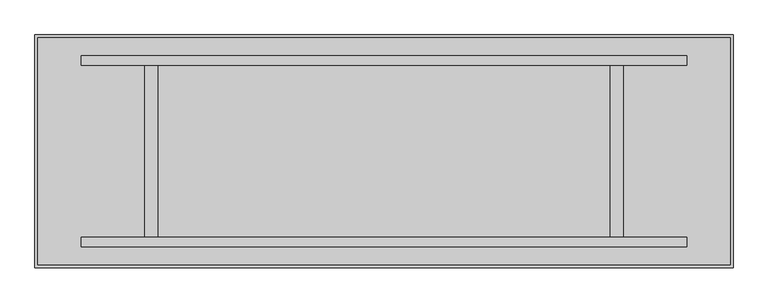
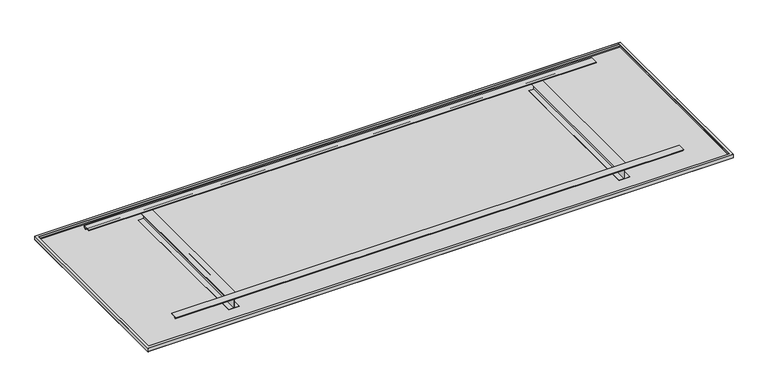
"""IFC4 building model written with IfcOpenShell, lengths in millimetres: proxy geometry, durlum_dur_SOLO_ACTIVE : durlum_dur_SOLO_ACTIVE."""

from ifc_helpers import new_model, si_unit, frame, origin, origin_with_axes, place, context, project, spatial, polyline, outline, extrude, source, transform, mapped, element, save


def generic_models_6a377f2d(model_context):
    return source(origin(), model_context, "Body", "SweptSolid", [
        extrude(outline(polyline([(410.0, 60.0), (400.0753283, 48.0), (398.8067583, 48.0), (392.3536095, 53.6332485), (393.3099367, 54.7895514), (399.3693644, 49.5), (406.8128682, 58.5), (370.0, 58.5), (370.0, 60.0), (410.0, 60.0)])), frame((-1300.0, 0.0, 0.0), z_axis=(1.0, 0.0, 0.0), x_axis=(0.0, 1.0, 0.0)), (0.0, 0.0, 1.0), 2600.0),
        extrude(outline(polyline([(-410.0, 60.0), (-370.0, 60.0), (-370.0, 58.5), (-406.8128682, 58.5), (-399.3693644, 49.5), (-393.3099367, 54.7895514), (-392.3536095, 53.6332485), (-398.8067583, 48.0), (-400.0753283, 48.0), (-410.0, 60.0)])), frame((-1300.0, 0.0, 0.0), z_axis=(1.0, 0.0, 0.0), x_axis=(0.0, 1.0, 0.0)), (0.0, 0.0, 1.0), 2600.0),
        extrude(outline(polyline([(55.6, 1027.5), (55.6, 972.5), (53.6, 972.5), (53.6, 999.0), (2.6, 999.0), (2.6, 972.5), (0.6, 972.5), (0.6, 1027.5), (2.6, 1027.5), (2.6, 1001.0), (53.6, 1001.0), (53.6, 1027.5), (55.6, 1027.5)])), frame((0.0, -400.0, 0.0), z_axis=(0.0, 1.0, 0.0), x_axis=(0.0, 0.0, 1.0)), (0.0, 0.0, 1.0), 800.0),
        extrude(outline(polyline([(55.6, -972.5), (55.6, -1027.5), (53.6, -1027.5), (53.6, -1001.0), (2.6, -1001.0), (2.6, -1027.5), (0.6, -1027.5), (0.6, -972.5), (2.6, -972.5), (2.6, -999.0), (53.6, -999.0), (53.6, -972.5), (55.6, -972.5)])), frame((0.0, -400.0, 0.0), z_axis=(0.0, 1.0, 0.0), x_axis=(0.0, 0.0, 1.0)), (0.0, 0.0, 1.0), 800.0),
        extrude(outline(polyline([(1500.0, 500.0), (1500.0, -500.0), (-1500.0, -500.0), (-1500.0, 500.0), (1500.0, 500.0)]), holes=[polyline([(-1488.0, 488.0), (-1488.0, -488.0), (1488.0, -488.0), (1488.0, 488.0), (-1488.0, 488.0)])]), frame((0.0, 0.0, 20.0), z_axis=(0.0, 0.0, 1.0), x_axis=(1.0, 0.0, 0.0)), (0.0, 0.0, 1.0), 0.6),
        extrude(outline(polyline([(1500.0, 500.0), (1500.0, -500.0), (-1500.0, -500.0), (-1500.0, 500.0), (1500.0, 500.0)]), holes=[polyline([(1499.4, 499.4), (-1499.4, 499.4), (-1499.4, -499.4), (1499.4, -499.4), (1499.4, 499.4)])]), frame((0.0, 0.0, 0.6), z_axis=(0.0, 0.0, 1.0), x_axis=(1.0, 0.0, 0.0)), (0.0, 0.0, 1.0), 19.4),
        extrude(outline(polyline([(1492.0, 492.0), (1492.0, -492.0), (-1492.0, -492.0), (-1492.0, 492.0), (1492.0, 492.0)])), frame((0.0, 0.0, 0.6), z_axis=(0.0, 0.0, 1.0), x_axis=(1.0, 0.0, 0.0)), (0.0, 0.0, 1.0), 0.6),
        extrude(outline(polyline([(1500.0, 500.0), (1500.0, -500.0), (-1500.0, -500.0), (-1500.0, 500.0), (1500.0, 500.0)]), holes=[polyline([(1492.0, 492.0), (-1492.0, 492.0), (-1492.0, -492.0), (1492.0, -492.0), (1492.0, 492.0)])]), origin_with_axes(), (0.0, 0.0, 1.0), 0.6),
        extrude(outline(polyline([(1492.0, 492.0), (1492.0, -492.0), (-1492.0, -492.0), (-1492.0, 492.0), (1492.0, 492.0)])), origin_with_axes(), (0.0, 0.0, 1.0), 0.6),
    ])


if __name__ == "__main__":
    model = new_model("IFC4")
    model_context = context("Model", 3, world=origin())
    ifc_project = project(units=[si_unit("LENGTHUNIT", "METRE", prefix="MILLI")], contexts=[model_context])
    site = spatial("IfcSite", under=ifc_project)
    building = spatial("IfcBuilding", under=site)
    placement = place(None, origin())
    generic_models_shape = generic_models_6a377f2d(model_context)
    element("IfcBuildingElementProxy", 1, Name="durlum_dur_SOLO_ACTIVE : durlum_dur_SOLO_ACTIVE", ObjectType="durlum_dur_SOLO_ACTIVE : durlum_dur_SOLO_ACTIVE", at=placement, inside=building, context=model_context, shape_type="MappedRepresentation", body=[
        mapped(generic_models_shape, transform((0.0, 0.0, 0.0), x_axis=(1.0, 0.0, 0.0), y_axis=(0.0, 1.0, 0.0), z_axis=(0.0, 0.0, 1.0))),
    ])
    save(model, "model.ifc")
